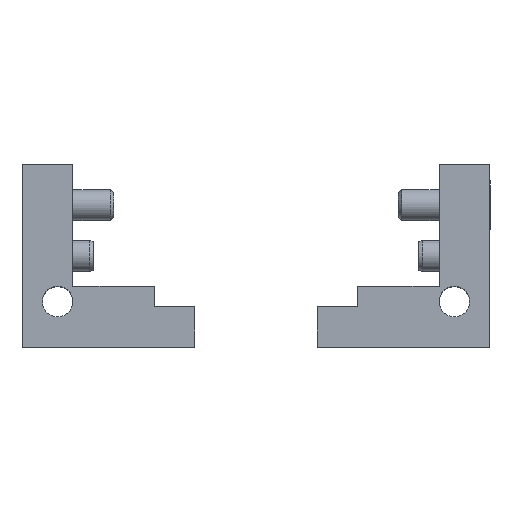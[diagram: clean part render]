
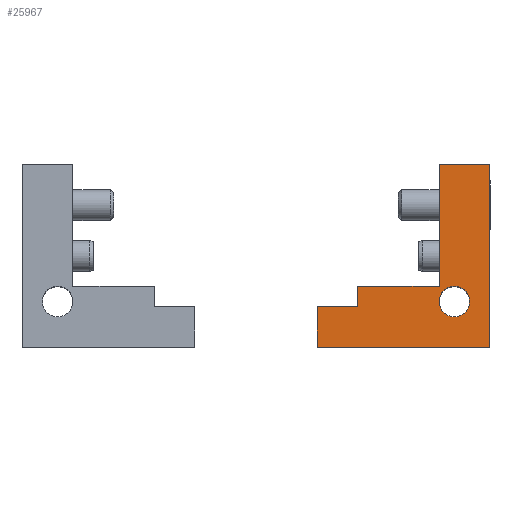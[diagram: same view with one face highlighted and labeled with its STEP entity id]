
A CAD part, top view. The second image highlights one B-rep face of the part: STEP entity #25967.
In plain terms, the highlighted planar face has unit normal (0, 0, 1).
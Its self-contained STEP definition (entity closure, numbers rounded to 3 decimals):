
#665 = LINE ( 'NONE', #23862, #36510 ) ;
#1676 = VECTOR ( 'NONE', #28369, 1000. ) ;
#2689 = EDGE_LOOP ( 'NONE', ( #23448 ) ) ;
#3587 = DIRECTION ( 'NONE',  ( 0., 1., 0. ) ) ;
#4754 = VERTEX_POINT ( 'NONE', #6629 ) ;
#5137 = LINE ( 'NONE', #18237, #36120 ) ;
#5485 = ORIENTED_EDGE ( 'NONE', *, *, #21783, .T. ) ;
#6318 = VERTEX_POINT ( 'NONE', #31691 ) ;
#6629 = CARTESIAN_POINT ( 'NONE',  ( -29.741, 76.74, 11.932 ) ) ;
#7132 = DIRECTION ( 'NONE',  ( 0., 0., -1. ) ) ;
#8112 = VERTEX_POINT ( 'NONE', #29745 ) ;
#9463 = EDGE_CURVE ( 'NONE', #6318, #42699, #37720, .T. ) ;
#9812 = LINE ( 'NONE', #17914, #1676 ) ;
#10059 = DIRECTION ( 'NONE',  ( -1., 0., 0. ) ) ;
#10352 = EDGE_CURVE ( 'NONE', #18247, #23841, #665, .T. ) ;
#10633 = DIRECTION ( 'NONE',  ( 0., 1., 0. ) ) ;
#10945 = DIRECTION ( 'NONE',  ( 0., 0., 1. ) ) ;
#11538 = EDGE_CURVE ( 'NONE', #39792, #6318, #36287, .T. ) ;
#12125 = EDGE_CURVE ( 'NONE', #23841, #8112, #40556, .T. ) ;
#13630 = CIRCLE ( 'NONE', #42833, 1.5 ) ;
#15057 = ORIENTED_EDGE ( 'NONE', *, *, #9463, .F. ) ;
#15666 = EDGE_CURVE ( 'NONE', #32453, #32453, #13630, .T. ) ;
#15730 = EDGE_CURVE ( 'NONE', #4754, #42699, #9812, .T. ) ;
#16367 = ORIENTED_EDGE ( 'NONE', *, *, #10352, .F. ) ;
#17682 = ORIENTED_EDGE ( 'NONE', *, *, #11538, .F. ) ;
#17911 = CARTESIAN_POINT ( 'NONE',  ( -24.741, 76.74, 11.932 ) ) ;
#17914 = CARTESIAN_POINT ( 'NONE',  ( -29.741, 76.74, 11.932 ) ) ;
#18089 = DIRECTION ( 'NONE',  ( 1., 0., 0. ) ) ;
#18237 = CARTESIAN_POINT ( 'NONE',  ( -41.741, 62.74, 11.932 ) ) ;
#18247 = VERTEX_POINT ( 'NONE', #21818 ) ;
#18866 = AXIS2_PLACEMENT_3D ( 'NONE', #17911, #7132, #10633 ) ;
#19396 = CARTESIAN_POINT ( 'NONE',  ( -41.741, 58.74, 11.932 ) ) ;
#19409 = VECTOR ( 'NONE', #3587, 1000. ) ;
#20663 = DIRECTION ( 'NONE',  ( 0., 1., 0. ) ) ;
#21067 = DIRECTION ( 'NONE',  ( 1., 0., 0. ) ) ;
#21783 = EDGE_CURVE ( 'NONE', #44990, #4754, #32529, .T. ) ;
#21818 = CARTESIAN_POINT ( 'NONE',  ( -24.741, 58.74, 11.932 ) ) ;
#21940 = DIRECTION ( 'NONE',  ( -1., 0., 0. ) ) ;
#23270 = FACE_OUTER_BOUND ( 'NONE', #27080, .T. ) ;
#23326 = VECTOR ( 'NONE', #21940, 1000. ) ;
#23448 = ORIENTED_EDGE ( 'NONE', *, *, #15666, .F. ) ;
#23841 = VERTEX_POINT ( 'NONE', #19396 ) ;
#23862 = CARTESIAN_POINT ( 'NONE',  ( -24.741, 58.74, 11.932 ) ) ;
#24943 = CARTESIAN_POINT ( 'NONE',  ( -29.741, 64.74, 11.932 ) ) ;
#25507 = CARTESIAN_POINT ( 'NONE',  ( -37.741, 62.74, 11.932 ) ) ;
#25967 = ADVANCED_FACE ( 'NONE', ( #44974, #23270 ), #28043, .F. ) ;
#26813 = ORIENTED_EDGE ( 'NONE', *, *, #12125, .F. ) ;
#27080 = EDGE_LOOP ( 'NONE', ( #15057, #17682, #31832, #26813, #16367, #34606, #5485, #32887 ) ) ;
#27240 = CARTESIAN_POINT ( 'NONE',  ( -24.741, 76.74, 11.932 ) ) ;
#27680 = CARTESIAN_POINT ( 'NONE',  ( -26.741, 63.24, 11.932 ) ) ;
#27709 = EDGE_CURVE ( 'NONE', #8112, #39792, #5137, .T. ) ;
#27897 = DIRECTION ( 'NONE',  ( 1., 0., 0. ) ) ;
#28043 = PLANE ( 'NONE',  #18866 ) ;
#28113 = VECTOR ( 'NONE', #35212, 1000. ) ;
#28369 = DIRECTION ( 'NONE',  ( 0., -1., 0. ) ) ;
#29372 = CARTESIAN_POINT ( 'NONE',  ( -24.741, 76.74, 11.932 ) ) ;
#29587 = VECTOR ( 'NONE', #21067, 1000. ) ;
#29745 = CARTESIAN_POINT ( 'NONE',  ( -41.741, 62.74, 11.932 ) ) ;
#31211 = CARTESIAN_POINT ( 'NONE',  ( -41.741, 59.74, 11.932 ) ) ;
#31222 = CARTESIAN_POINT ( 'NONE',  ( -41.741, 64.74, 11.932 ) ) ;
#31253 = CARTESIAN_POINT ( 'NONE',  ( -37.741, 62.74, 11.932 ) ) ;
#31550 = CARTESIAN_POINT ( 'NONE',  ( -28.241, 63.24, 11.932 ) ) ;
#31691 = CARTESIAN_POINT ( 'NONE',  ( -37.741, 64.74, 11.932 ) ) ;
#31832 = ORIENTED_EDGE ( 'NONE', *, *, #27709, .F. ) ;
#32453 = VERTEX_POINT ( 'NONE', #27680 ) ;
#32529 = LINE ( 'NONE', #29372, #23326 ) ;
#32887 = ORIENTED_EDGE ( 'NONE', *, *, #15730, .T. ) ;
#34599 = CARTESIAN_POINT ( 'NONE',  ( -24.741, 76.74, 11.932 ) ) ;
#34606 = ORIENTED_EDGE ( 'NONE', *, *, #41235, .F. ) ;
#35168 = VECTOR ( 'NONE', #20663, 1000. ) ;
#35212 = DIRECTION ( 'NONE',  ( 0., -1., 0. ) ) ;
#35787 = LINE ( 'NONE', #34599, #28113 ) ;
#36120 = VECTOR ( 'NONE', #18089, 1000. ) ;
#36287 = LINE ( 'NONE', #31253, #35168 ) ;
#36510 = VECTOR ( 'NONE', #10059, 1000. ) ;
#37720 = LINE ( 'NONE', #31222, #29587 ) ;
#39792 = VERTEX_POINT ( 'NONE', #25507 ) ;
#40556 = LINE ( 'NONE', #31211, #19409 ) ;
#41235 = EDGE_CURVE ( 'NONE', #44990, #18247, #35787, .T. ) ;
#42699 = VERTEX_POINT ( 'NONE', #24943 ) ;
#42833 = AXIS2_PLACEMENT_3D ( 'NONE', #31550, #10945, #27897 ) ;
#44974 = FACE_BOUND ( 'NONE', #2689, .T. ) ;
#44990 = VERTEX_POINT ( 'NONE', #27240 ) ;
